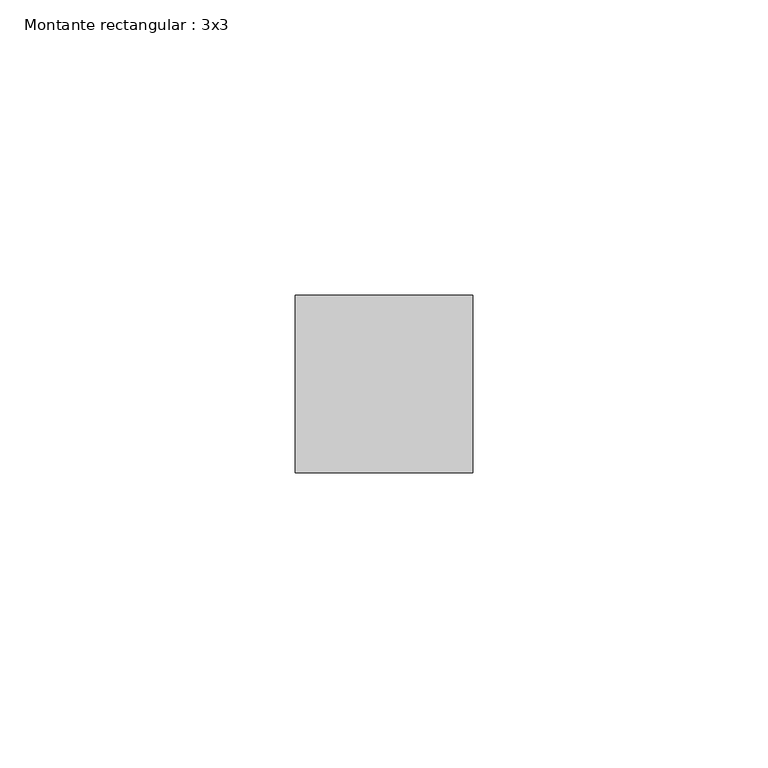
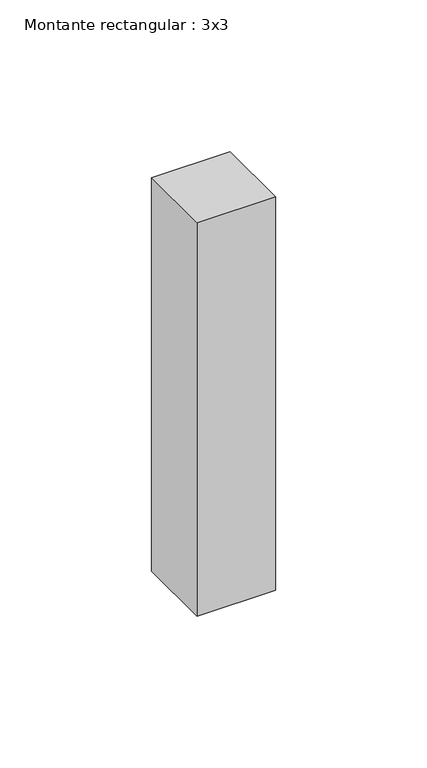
"""IFC4 building model written with IfcOpenShell, lengths in millimetres: member geometry, Montante rectangular : 3x3."""

from ifc_helpers import new_model, si_unit, frame, origin, place, context, project, spatial, polyline, outline, extrude, source, transform, mapped, element, save


def montante_rectangular_3x3_048b7d03(model_context):
    return source(origin(), model_context, "Body", "SweptSolid", [
        extrude(outline(polyline([(15.0, 15.0), (15.0, -15.0), (-15.0, -15.0), (-15.0, 15.0), (15.0, 15.0)])), frame((0.0, 0.0, -158.5244088), z_axis=(0.0, 0.0, 1.0), x_axis=(1.0, 0.0, 0.0)), (0.0, 0.0, 1.0), 158.5244088),
    ])


if __name__ == "__main__":
    model = new_model("IFC4")
    model_context = context("Model", 3, world=origin())
    ifc_project = project(units=[si_unit("LENGTHUNIT", "METRE", prefix="MILLI")], contexts=[model_context])
    site = spatial("IfcSite", under=ifc_project)
    building = spatial("IfcBuilding", under=site)
    placement = place(None, origin())
    montante_rectangular_3x3_shape = montante_rectangular_3x3_048b7d03(model_context)
    element("IfcMember", 1, ObjectType="Montante rectangular : 3x3", at=placement, inside=building, context=model_context, shape_type="MappedRepresentation", body=[
        mapped(montante_rectangular_3x3_shape, transform((0.0, 0.0, 0.0), x_axis=(1.0, 0.0, 0.0), y_axis=(0.0, 1.0, 0.0), z_axis=(0.0, 0.0, 1.0))),
    ])
    save(model, "model.ifc")
